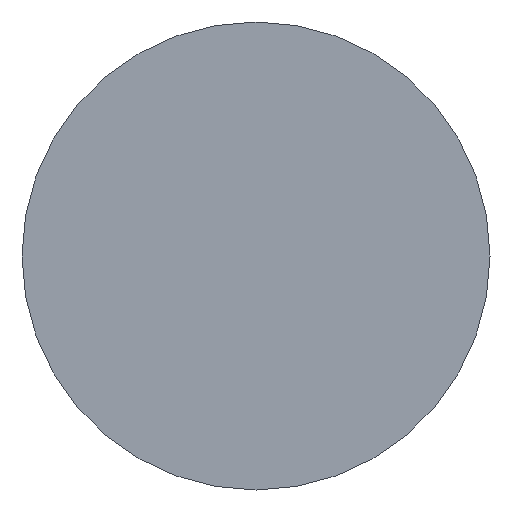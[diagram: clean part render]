
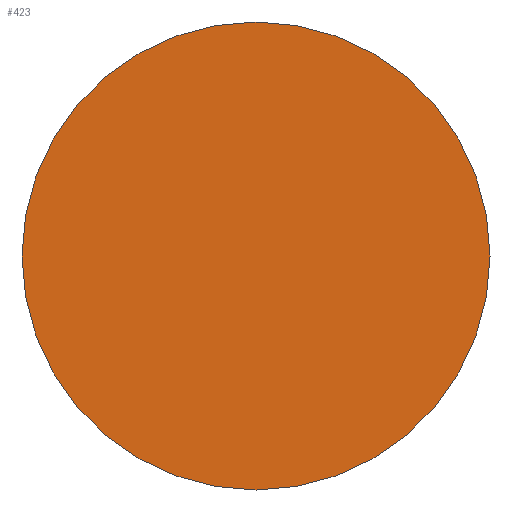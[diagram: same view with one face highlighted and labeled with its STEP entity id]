
A CAD part, front view. The second image highlights one B-rep face of the part: STEP entity #423.
In plain terms, the highlighted planar face has unit normal (0, -1, 0).
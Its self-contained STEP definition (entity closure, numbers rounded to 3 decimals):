
#4 = DIRECTION ( 'NONE',  ( 0., -1., 0. ) ) ;
#35 = AXIS2_PLACEMENT_3D ( 'NONE', #160, #4, #315 ) ;
#49 = DIRECTION ( 'NONE',  ( 0., -1., 0. ) ) ;
#71 = AXIS2_PLACEMENT_3D ( 'NONE', #237, #49, #393 ) ;
#82 = AXIS2_PLACEMENT_3D ( 'NONE', #240, #475, #128 ) ;
#105 = CIRCLE ( 'NONE', #71, 9. ) ;
#113 = ORIENTED_EDGE ( 'NONE', *, *, #307, .T. ) ;
#122 = CARTESIAN_POINT ( 'NONE',  ( 0., 0., 9. ) ) ;
#128 = DIRECTION ( 'NONE',  ( 0., 0., -1. ) ) ;
#134 = VERTEX_POINT ( 'NONE', #268 ) ;
#155 = CIRCLE ( 'NONE', #35, 9. ) ;
#160 = CARTESIAN_POINT ( 'NONE',  ( 0., 0., 0. ) ) ;
#187 = EDGE_CURVE ( 'NONE', #415, #134, #155, .T. ) ;
#205 = PLANE ( 'NONE',  #82 ) ;
#212 = ORIENTED_EDGE ( 'NONE', *, *, #187, .T. ) ;
#237 = CARTESIAN_POINT ( 'NONE',  ( 0., 0., 0. ) ) ;
#240 = CARTESIAN_POINT ( 'NONE',  ( 9., 0., 0. ) ) ;
#268 = CARTESIAN_POINT ( 'NONE',  ( 0., 0., -9. ) ) ;
#307 = EDGE_CURVE ( 'NONE', #134, #415, #105, .T. ) ;
#315 = DIRECTION ( 'NONE',  ( 0., 0., -1. ) ) ;
#352 = FACE_OUTER_BOUND ( 'NONE', #437, .T. ) ;
#393 = DIRECTION ( 'NONE',  ( 0., 0., -1. ) ) ;
#415 = VERTEX_POINT ( 'NONE', #122 ) ;
#423 = ADVANCED_FACE ( 'NONE', ( #352 ), #205, .T. ) ;
#437 = EDGE_LOOP ( 'NONE', ( #113, #212 ) ) ;
#475 = DIRECTION ( 'NONE',  ( 0., -1., 0. ) ) ;
